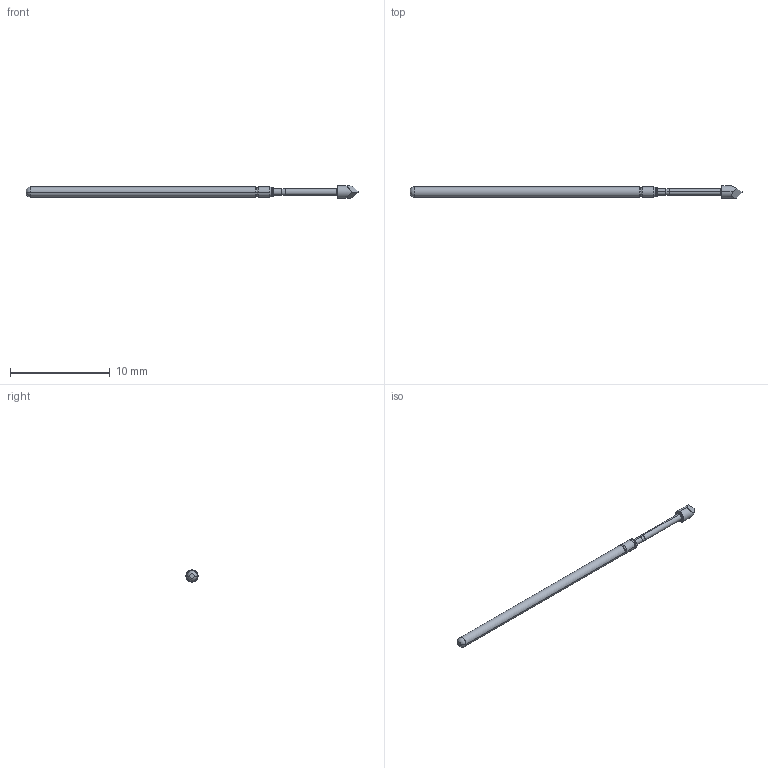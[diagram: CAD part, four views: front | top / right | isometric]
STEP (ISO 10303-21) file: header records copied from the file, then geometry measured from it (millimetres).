
FILE_DESCRIPTION (( 'STEP AP203' ), '1' );
FILE_NAME ('101024-028-922 (REST).STEP', '2022-11-18T09:47:21', ( '' ), ( '' ), 'SwSTEP 2.0', 'SolidWorks 2022', '' );
FILE_SCHEMA (( 'CONFIG_CONTROL_DESIGN' ));
Length unit declared in the file: inch
Products named in the file (1): 101024-028-922 (REST)
Bounding box: 33.27 x 1.22 x 1.22 mm (x, y, z)
Volume: 23.9 mm3; surface area: 100.7 mm2
Topology: 1 solids, 1 shells, 34 faces, 69 edges, 40 vertices
Faces by surface type: cylinder 12, torus 8, plane 8, cone 6
Entity records: 968 total; most frequent: DIRECTION 174, CARTESIAN_POINT 159, ORIENTED_EDGE 138, AXIS2_PLACEMENT_3D 75, EDGE_CURVE 69, CIRCLE 40, VERTEX_POINT 40, EDGE_LOOP 37
